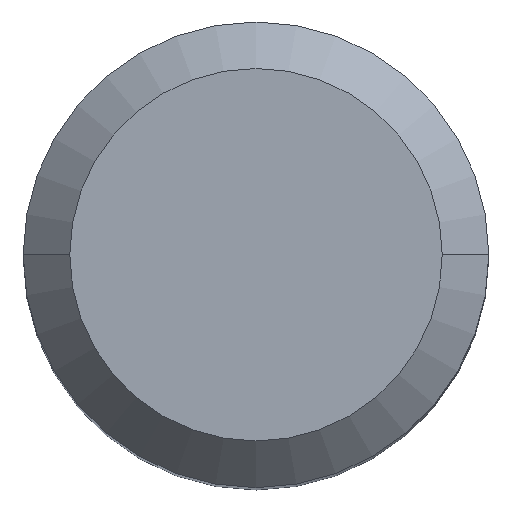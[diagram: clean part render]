
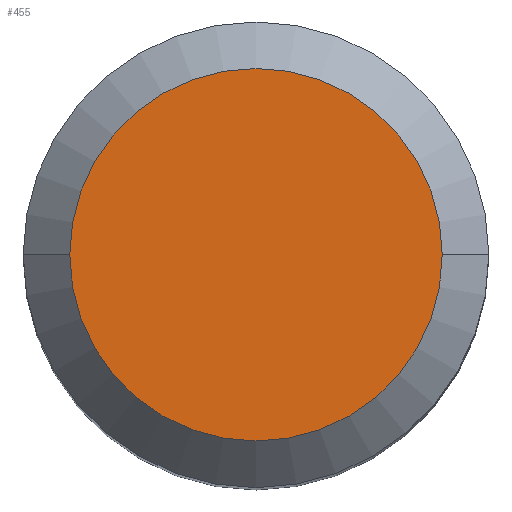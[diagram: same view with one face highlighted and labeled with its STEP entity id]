
A CAD part, top view. The second image highlights one B-rep face of the part: STEP entity #455.
In plain terms, the highlighted planar face has unit normal (0, 0, 1).
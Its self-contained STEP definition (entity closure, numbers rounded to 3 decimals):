
#1 = CARTESIAN_POINT ( 'NONE',  ( 6.4, 0., 0. ) ) ;
#55 = ORIENTED_EDGE ( 'NONE', *, *, #420, .F. ) ;
#77 = EDGE_CURVE ( 'NONE', #383, #82, #265, .T. ) ;
#82 = VERTEX_POINT ( 'NONE', #1 ) ;
#98 = CARTESIAN_POINT ( 'NONE',  ( 0., 6.4, 0. ) ) ;
#106 = AXIS2_PLACEMENT_3D ( 'NONE', #432, #164, #127 ) ;
#127 = DIRECTION ( 'NONE',  ( -1., 0., 0. ) ) ;
#164 = DIRECTION ( 'NONE',  ( 0., 0., -1. ) ) ;
#179 = PLANE ( 'NONE',  #430 ) ;
#182 = DIRECTION ( 'NONE',  ( 0., 0., 1. ) ) ;
#191 = CIRCLE ( 'NONE', #338, 6.4 ) ;
#259 = FACE_OUTER_BOUND ( 'NONE', #490, .T. ) ;
#265 = CIRCLE ( 'NONE', #106, 6.4 ) ;
#281 = CARTESIAN_POINT ( 'NONE',  ( -6.4, 0., 0. ) ) ;
#292 = CARTESIAN_POINT ( 'NONE',  ( 0., 0., 0. ) ) ;
#323 = DIRECTION ( 'NONE',  ( -1., 0., 0. ) ) ;
#338 = AXIS2_PLACEMENT_3D ( 'NONE', #292, #470, #323 ) ;
#383 = VERTEX_POINT ( 'NONE', #281 ) ;
#420 = EDGE_CURVE ( 'NONE', #82, #383, #191, .T. ) ;
#430 = AXIS2_PLACEMENT_3D ( 'NONE', #98, #182, #488 ) ;
#432 = CARTESIAN_POINT ( 'NONE',  ( 0., 0., 0. ) ) ;
#455 = ADVANCED_FACE ( 'NONE', ( #259 ), #179, .T. ) ;
#457 = ORIENTED_EDGE ( 'NONE', *, *, #77, .F. ) ;
#470 = DIRECTION ( 'NONE',  ( 0., 0., -1. ) ) ;
#488 = DIRECTION ( 'NONE',  ( 1., 0., 0. ) ) ;
#490 = EDGE_LOOP ( 'NONE', ( #457, #55 ) ) ;
